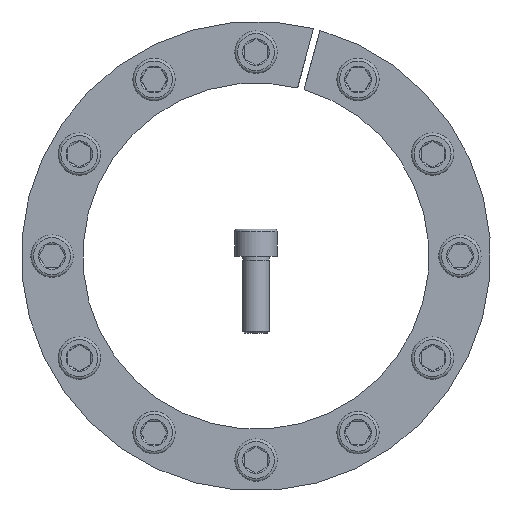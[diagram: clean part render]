
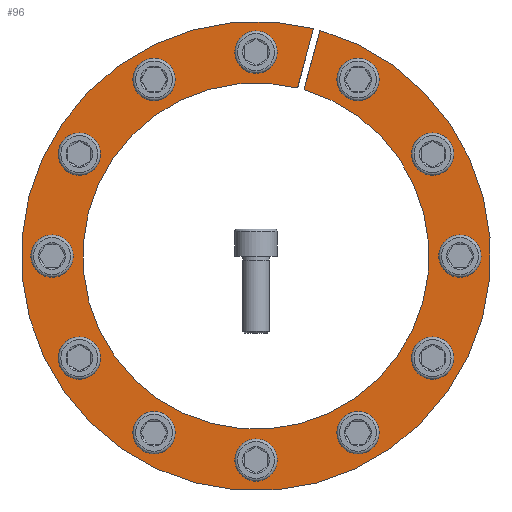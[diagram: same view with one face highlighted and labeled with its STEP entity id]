
A CAD part, front view. The second image highlights one B-rep face of the part: STEP entity #96.
In plain terms, the highlighted planar face has unit normal (0, -1, 0).
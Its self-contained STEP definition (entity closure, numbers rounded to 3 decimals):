
#96 = ADVANCED_FACE( '', ( #219, #220, #221, #222, #223, #224, #225, #226, #227, #228, #229, #230, #231 ), #232, .F. );
#219 = FACE_BOUND( '', #437, .T. );
#220 = FACE_BOUND( '', #438, .T. );
#221 = FACE_BOUND( '', #439, .T. );
#222 = FACE_BOUND( '', #440, .T. );
#223 = FACE_BOUND( '', #441, .T. );
#224 = FACE_BOUND( '', #442, .T. );
#225 = FACE_BOUND( '', #443, .T. );
#226 = FACE_BOUND( '', #444, .T. );
#227 = FACE_BOUND( '', #445, .T. );
#228 = FACE_BOUND( '', #446, .T. );
#229 = FACE_BOUND( '', #447, .T. );
#230 = FACE_BOUND( '', #448, .T. );
#231 = FACE_OUTER_BOUND( '', #449, .T. );
#232 = PLANE( '', #450 );
#437 = EDGE_LOOP( '', ( #706 ) );
#438 = EDGE_LOOP( '', ( #707 ) );
#439 = EDGE_LOOP( '', ( #708 ) );
#440 = EDGE_LOOP( '', ( #709 ) );
#441 = EDGE_LOOP( '', ( #710 ) );
#442 = EDGE_LOOP( '', ( #711 ) );
#443 = EDGE_LOOP( '', ( #712 ) );
#444 = EDGE_LOOP( '', ( #713 ) );
#445 = EDGE_LOOP( '', ( #714 ) );
#446 = EDGE_LOOP( '', ( #715 ) );
#447 = EDGE_LOOP( '', ( #716 ) );
#448 = EDGE_LOOP( '', ( #717 ) );
#449 = EDGE_LOOP( '', ( #718, #719, #720, #721 ) );
#450 = AXIS2_PLACEMENT_3D( '', #722, #723, #724 );
#706 = ORIENTED_EDGE( '', *, *, #1024, .T. );
#707 = ORIENTED_EDGE( '', *, *, #1040, .T. );
#708 = ORIENTED_EDGE( '', *, *, #1035, .T. );
#709 = ORIENTED_EDGE( '', *, *, #1041, .T. );
#710 = ORIENTED_EDGE( '', *, *, #1042, .T. );
#711 = ORIENTED_EDGE( '', *, *, #1043, .T. );
#712 = ORIENTED_EDGE( '', *, *, #1044, .T. );
#713 = ORIENTED_EDGE( '', *, *, #1045, .T. );
#714 = ORIENTED_EDGE( '', *, *, #1046, .T. );
#715 = ORIENTED_EDGE( '', *, *, #1047, .T. );
#716 = ORIENTED_EDGE( '', *, *, #1048, .T. );
#717 = ORIENTED_EDGE( '', *, *, #1027, .T. );
#718 = ORIENTED_EDGE( '', *, *, #1049, .T. );
#719 = ORIENTED_EDGE( '', *, *, #1050, .T. );
#720 = ORIENTED_EDGE( '', *, *, #1051, .T. );
#721 = ORIENTED_EDGE( '', *, *, #1052, .F. );
#722 = CARTESIAN_POINT( '', ( 0., 0., 122. ) );
#723 = DIRECTION( '', ( 0., 1., 0. ) );
#724 = DIRECTION( '', ( 0., 0., 1. ) );
#1024 = EDGE_CURVE( '', #1210, #1210, #1211, .T. );
#1027 = EDGE_CURVE( '', #1215, #1215, #1216, .T. );
#1035 = EDGE_CURVE( '', #1229, #1229, #1230, .T. );
#1040 = EDGE_CURVE( '', #1237, #1237, #1238, .T. );
#1041 = EDGE_CURVE( '', #1239, #1239, #1240, .T. );
#1042 = EDGE_CURVE( '', #1241, #1241, #1242, .T. );
#1043 = EDGE_CURVE( '', #1243, #1243, #1244, .T. );
#1044 = EDGE_CURVE( '', #1245, #1245, #1246, .T. );
#1045 = EDGE_CURVE( '', #1247, #1247, #1248, .T. );
#1046 = EDGE_CURVE( '', #1249, #1249, #1250, .T. );
#1047 = EDGE_CURVE( '', #1251, #1251, #1252, .T. );
#1048 = EDGE_CURVE( '', #1253, #1253, #1254, .T. );
#1049 = EDGE_CURVE( '', #1255, #1256, #1257, .T. );
#1050 = EDGE_CURVE( '', #1256, #1258, #1259, .T. );
#1051 = EDGE_CURVE( '', #1258, #1260, #1261, .T. );
#1052 = EDGE_CURVE( '', #1255, #1260, #1262, .T. );
#1210 = VERTEX_POINT( '', #1543 );
#1211 = CIRCLE( '', #1544, 7. );
#1215 = VERTEX_POINT( '', #1548 );
#1216 = CIRCLE( '', #1549, 7. );
#1229 = VERTEX_POINT( '', #1564 );
#1230 = CIRCLE( '', #1565, 7. );
#1237 = VERTEX_POINT( '', #1572 );
#1238 = CIRCLE( '', #1573, 7. );
#1239 = VERTEX_POINT( '', #1574 );
#1240 = CIRCLE( '', #1575, 7. );
#1241 = VERTEX_POINT( '', #1576 );
#1242 = CIRCLE( '', #1577, 7. );
#1243 = VERTEX_POINT( '', #1578 );
#1244 = CIRCLE( '', #1579, 7. );
#1245 = VERTEX_POINT( '', #1580 );
#1246 = CIRCLE( '', #1581, 7. );
#1247 = VERTEX_POINT( '', #1582 );
#1248 = CIRCLE( '', #1583, 7. );
#1249 = VERTEX_POINT( '', #1584 );
#1250 = CIRCLE( '', #1585, 7. );
#1251 = VERTEX_POINT( '', #1586 );
#1252 = CIRCLE( '', #1587, 7. );
#1253 = VERTEX_POINT( '', #1588 );
#1254 = CIRCLE( '', #1589, 7. );
#1255 = VERTEX_POINT( '', #1590 );
#1256 = VERTEX_POINT( '', #1591 );
#1257 = LINE( '', #1592, #1593 );
#1258 = VERTEX_POINT( '', #1594 );
#1259 = CIRCLE( '', #1595, 122. );
#1260 = VERTEX_POINT( '', #1596 );
#1261 = LINE( '', #1597, #1598 );
#1262 = CIRCLE( '', #1599, 90. );
#1543 = CARTESIAN_POINT( '', ( -46.938, 0., 95.299 ) );
#1544 = AXIS2_PLACEMENT_3D( '', #1782, #1783, #1784 );
#1548 = CARTESIAN_POINT( '', ( -88.299, 0., 59.062 ) );
#1549 = AXIS2_PLACEMENT_3D( '', #1788, #1789, #1790 );
#1564 = CARTESIAN_POINT( '', ( -59.062, 0., -88.299 ) );
#1565 = AXIS2_PLACEMENT_3D( '', #1802, #1803, #1804 );
#1572 = CARTESIAN_POINT( '', ( -106., 0., 7. ) );
#1573 = AXIS2_PLACEMENT_3D( '', #1811, #1812, #1813 );
#1574 = CARTESIAN_POINT( '', ( 46.938, 0., -95.299 ) );
#1575 = AXIS2_PLACEMENT_3D( '', #1814, #1815, #1816 );
#1576 = CARTESIAN_POINT( '', ( 106., 0., -7. ) );
#1577 = AXIS2_PLACEMENT_3D( '', #1817, #1818, #1819 );
#1578 = CARTESIAN_POINT( '', ( 59.062, 0., 88.299 ) );
#1579 = AXIS2_PLACEMENT_3D( '', #1820, #1821, #1822 );
#1580 = CARTESIAN_POINT( '', ( 7., 0., 106. ) );
#1581 = AXIS2_PLACEMENT_3D( '', #1823, #1824, #1825 );
#1582 = CARTESIAN_POINT( '', ( 95.299, 0., 46.938 ) );
#1583 = AXIS2_PLACEMENT_3D( '', #1826, #1827, #1828 );
#1584 = CARTESIAN_POINT( '', ( 88.299, 0., -59.062 ) );
#1585 = AXIS2_PLACEMENT_3D( '', #1829, #1830, #1831 );
#1586 = CARTESIAN_POINT( '', ( -7., 0., -106. ) );
#1587 = AXIS2_PLACEMENT_3D( '', #1832, #1833, #1834 );
#1588 = CARTESIAN_POINT( '', ( -95.299, 0., -46.938 ) );
#1589 = AXIS2_PLACEMENT_3D( '', #1835, #1836, #1837 );
#1590 = CARTESIAN_POINT( '', ( 21.599, 0., 87.37 ) );
#1591 = CARTESIAN_POINT( '', ( 29.882, 0., 118.284 ) );
#1592 = CARTESIAN_POINT( '', ( 21.599, 0., 87.37 ) );
#1593 = VECTOR( '', #1838, 1000. );
#1594 = CARTESIAN_POINT( '', ( 33.263, 0., 117.378 ) );
#1595 = AXIS2_PLACEMENT_3D( '', #1839, #1840, #1841 );
#1596 = CARTESIAN_POINT( '', ( 24.98, 0., 86.464 ) );
#1597 = CARTESIAN_POINT( '', ( 33.266, 0., 117.39 ) );
#1598 = VECTOR( '', #1842, 1000. );
#1599 = AXIS2_PLACEMENT_3D( '', #1843, #1844, #1845 );
#1782 = CARTESIAN_POINT( '', ( -53., 0., 91.799 ) );
#1783 = DIRECTION( '', ( 0., 1., 0. ) );
#1784 = DIRECTION( '', ( 0.866, 0., 0.5 ) );
#1788 = CARTESIAN_POINT( '', ( -91.799, 0., 53. ) );
#1789 = DIRECTION( '', ( 0., 1., 0. ) );
#1790 = DIRECTION( '', ( 0.5, 0., 0.866 ) );
#1802 = CARTESIAN_POINT( '', ( -53., 0., -91.799 ) );
#1803 = DIRECTION( '', ( 0., 1., 0. ) );
#1804 = DIRECTION( '', ( -0.866, 0., 0.5 ) );
#1811 = CARTESIAN_POINT( '', ( -106., 0., 0. ) );
#1812 = DIRECTION( '', ( 0., 1., 0. ) );
#1813 = DIRECTION( '', ( 0., 0., 1. ) );
#1814 = CARTESIAN_POINT( '', ( 53., 0., -91.799 ) );
#1815 = DIRECTION( '', ( 0., 1., 0. ) );
#1816 = DIRECTION( '', ( -0.866, 0., -0.5 ) );
#1817 = CARTESIAN_POINT( '', ( 106., 0., 0. ) );
#1818 = DIRECTION( '', ( 0., 1., 0. ) );
#1819 = DIRECTION( '', ( 0., 0., -1. ) );
#1820 = CARTESIAN_POINT( '', ( 53., 0., 91.799 ) );
#1821 = DIRECTION( '', ( 0., 1., 0. ) );
#1822 = DIRECTION( '', ( 0.866, 0., -0.5 ) );
#1823 = CARTESIAN_POINT( '', ( 0., 0., 106. ) );
#1824 = DIRECTION( '', ( 0., 1., 0. ) );
#1825 = DIRECTION( '', ( 1., 0., 0. ) );
#1826 = CARTESIAN_POINT( '', ( 91.799, 0., 53. ) );
#1827 = DIRECTION( '', ( 0., 1., 0. ) );
#1828 = DIRECTION( '', ( 0.5, 0., -0.866 ) );
#1829 = CARTESIAN_POINT( '', ( 91.799, 0., -53. ) );
#1830 = DIRECTION( '', ( 0., 1., 0. ) );
#1831 = DIRECTION( '', ( -0.5, 0., -0.866 ) );
#1832 = CARTESIAN_POINT( '', ( 0., 0., -106. ) );
#1833 = DIRECTION( '', ( 0., 1., 0. ) );
#1834 = DIRECTION( '', ( -1., 0., 0. ) );
#1835 = CARTESIAN_POINT( '', ( -91.799, 0., -53. ) );
#1836 = DIRECTION( '', ( 0., 1., 0. ) );
#1837 = DIRECTION( '', ( -0.5, 0., 0.866 ) );
#1838 = DIRECTION( '', ( 0.259, 0., 0.966 ) );
#1839 = CARTESIAN_POINT( '', ( 0., 0., 0. ) );
#1840 = DIRECTION( '', ( 0., -1., 0. ) );
#1841 = DIRECTION( '', ( 0., 0., -1. ) );
#1842 = DIRECTION( '', ( -0.259, 0., -0.966 ) );
#1843 = CARTESIAN_POINT( '', ( 0., 0., 0. ) );
#1844 = DIRECTION( '', ( 0., -1., 0. ) );
#1845 = DIRECTION( '', ( 0., 0., -1. ) );
